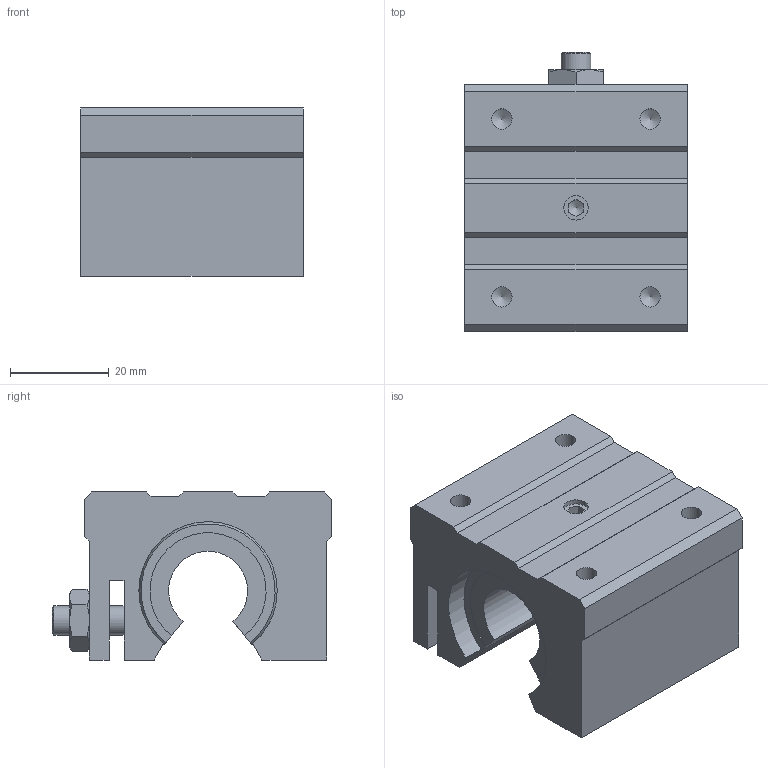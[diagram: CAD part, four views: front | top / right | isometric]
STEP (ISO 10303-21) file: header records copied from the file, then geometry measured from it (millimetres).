
FILE_DESCRIPTION((''),'2;1');
FILE_NAME('D:\製品 (図面)\カタログ用3D\GTA16H.stp','2010-06-07T16:11:44',('Tsuchiya'),(''),'Autodesk Inventor 10','Autodesk Inventor 10','');
FILE_SCHEMA(('AUTOMOTIVE_DESIGN { 1 0 10303 214 1 1 1 1 }'));
Length unit declared in the file: millimetre
Products named in the file (1): GTA16H
Bounding box: 45 x 56.5 x 34 mm (x, y, z)
Volume: 54305 mm3; surface area: 15042.4 mm2
Topology: 1 solids, 1 shells, 101 faces, 274 edges, 174 vertices
Faces by surface type: plane 57, cylinder 17, cone 15, bspline 10, torus 2
Full cylindrical faces by diameter (mm): 6 x2
Entity records: 3108 total; most frequent: CARTESIAN_POINT 772, ORIENTED_EDGE 498, DIRECTION 452, EDGE_CURVE 249, VERTEX_POINT 163, AXIS2_PLACEMENT_3D 151, VECTOR 150, LINE 150
